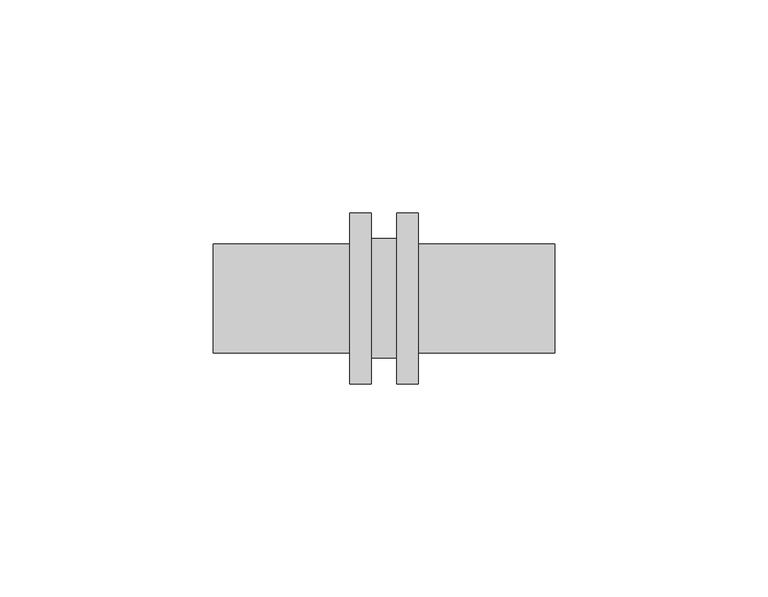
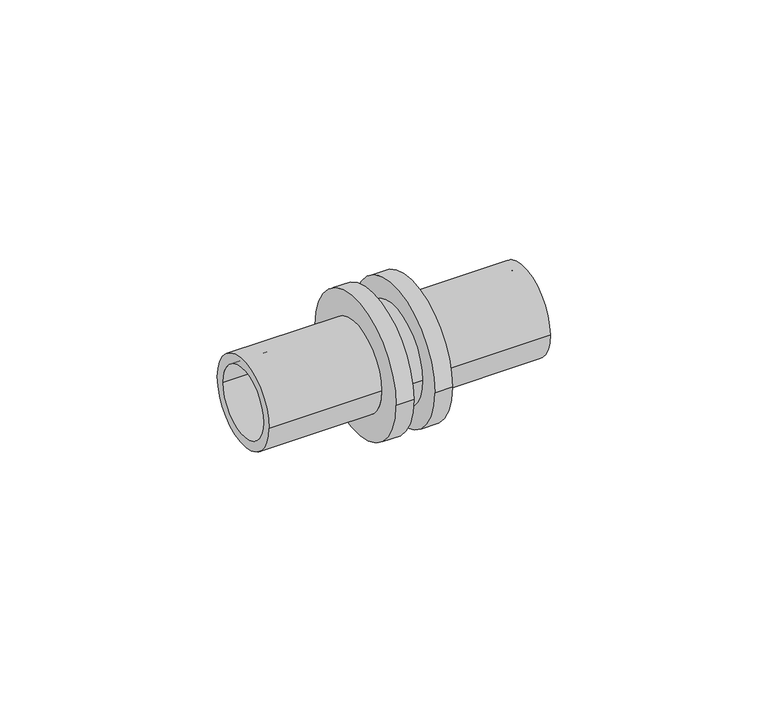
"""IFC4 building model written with IfcOpenShell, lengths in millimetres: pipe fitting geometry, RAUTITAN_Union_RX+ : RTI RX+ U DE."""

from ifc_helpers import new_model, si_unit, frame, origin, place, context, project, spatial, polyline, circle_curve, source, transform, mapped, element, save
from ifc_brep_helpers import plane_surface, cylinder_surface, revolved_surface, advanced_brep


def pipe_fitting_dc5bd9e1(model_context):
    return source(origin(), model_context, "Body", "AdvancedBrep", [
        advanced_brep(
        [(-40.0, 10.0, 0.0), (-40.0, -10.0, 0.0), (40.0, -10.0, 0.0), (40.0, 10.0, 0.0), (-8.0, 12.8, 0.0), (-8.0, -12.8, 0.0), (-40.0, -12.8, 0.0), (-40.0, 12.8, 0.0), (-3.0, 20.0, 0.0), (-3.0, -20.0, 0.0), (-8.0, -20.0, 0.0), (-8.0, 20.0, 0.0), (3.0, 14.0, 0.0), (3.0, -14.0, 0.0), (-3.0, -14.0, 0.0), (-3.0, 14.0, 0.0), (8.0, 20.0, 0.0), (8.0, -20.0, 0.0), (3.0, -20.0, 0.0), (3.0, 20.0, 0.0), (40.0, 12.8, 0.0), (40.0, -12.8, 0.0), (8.0, -12.8, 0.0), (8.0, 12.8, 0.0)],
        [
            (0, 1, circle_curve(frame((-40.0, 0.0, 0.0), z_axis=(-1.0, 0.0, 0.0), x_axis=(0.0, -1.0, 0.0)), 10.0)),
            (1, 2),
            (2, 3, circle_curve(frame((40.0, 0.0, 0.0), z_axis=(1.0, 0.0, 0.0), x_axis=(0.0, -1.0, 0.0)), 10.0)),
            (3, 0),
            (4, 5, circle_curve(frame((-8.0, 0.0, 0.0), z_axis=(-1.0, 0.0, 0.0), x_axis=(0.0, -1.0, 0.0)), 12.8)),
            (5, 6),
            (6, 7, circle_curve(frame((-40.0, 0.0, 0.0), z_axis=(1.0, 0.0, 0.0), x_axis=(0.0, -1.0, 0.0)), 12.8)),
            (7, 4),
            (8, 9, circle_curve(frame((-3.0, 0.0, 0.0), z_axis=(-1.0, 0.0, 0.0), x_axis=(0.0, -1.0, 0.0)), 20.0)),
            (9, 10),
            (10, 11, circle_curve(frame((-8.0, 0.0, 0.0), z_axis=(1.0, 0.0, 0.0), x_axis=(0.0, -1.0, 0.0)), 20.0)),
            (11, 8),
            (12, 13, circle_curve(frame((3.0, 0.0, 0.0), z_axis=(-1.0, 0.0, 0.0), x_axis=(0.0, -1.0, 0.0)), 14.0)),
            (13, 14),
            (14, 15, circle_curve(frame((-3.0, 0.0, 0.0), z_axis=(1.0, 0.0, 0.0), x_axis=(0.0, -1.0, 0.0)), 14.0)),
            (15, 12),
            (16, 17, circle_curve(frame((8.0, 0.0, 0.0), z_axis=(-1.0, 0.0, 0.0), x_axis=(0.0, -1.0, 0.0)), 20.0)),
            (17, 18),
            (18, 19, circle_curve(frame((3.0, 0.0, 0.0), z_axis=(1.0, 0.0, 0.0), x_axis=(0.0, -1.0, 0.0)), 20.0)),
            (19, 16),
            (20, 21, circle_curve(frame((40.0, 0.0, 0.0), z_axis=(-1.0, 0.0, 0.0), x_axis=(0.0, -1.0, 0.0)), 12.8)),
            (21, 22),
            (22, 23, circle_curve(frame((8.0, 0.0, 0.0), z_axis=(1.0, 0.0, 0.0), x_axis=(0.0, -1.0, 0.0)), 12.8)),
            (23, 20),
            (1, 0, circle_curve(frame((-40.0, 0.0, 0.0), z_axis=(-1.0, 0.0, 0.0), x_axis=(0.0, 1.0, 0.0)), 10.0)),
            (3, 2, circle_curve(frame((40.0, 0.0, 0.0), z_axis=(1.0, 0.0, 0.0), x_axis=(0.0, 1.0, 0.0)), 10.0)),
            (6, 7, circle_curve(frame((-40.0, 0.0, 0.0), z_axis=(-1.0, 0.0, 0.0), x_axis=(0.0, 1.0, 0.0)), 12.8)),
            (5, 4, circle_curve(frame((-8.0, 0.0, 0.0), z_axis=(-1.0, 0.0, 0.0), x_axis=(0.0, 1.0, 0.0)), 12.8)),
            (10, 11, circle_curve(frame((-8.0, 0.0, 0.0), z_axis=(-1.0, 0.0, 0.0), x_axis=(0.0, 1.0, 0.0)), 20.0)),
            (9, 8, circle_curve(frame((-3.0, 0.0, 0.0), z_axis=(-1.0, 0.0, 0.0), x_axis=(0.0, 1.0, 0.0)), 20.0)),
            (14, 15, circle_curve(frame((-3.0, 0.0, 0.0), z_axis=(-1.0, 0.0, 0.0), x_axis=(0.0, 1.0, 0.0)), 14.0)),
            (13, 12, circle_curve(frame((3.0, 0.0, 0.0), z_axis=(-1.0, 0.0, 0.0), x_axis=(0.0, 1.0, 0.0)), 14.0)),
            (18, 19, circle_curve(frame((3.0, 0.0, 0.0), z_axis=(-1.0, 0.0, 0.0), x_axis=(0.0, 1.0, 0.0)), 20.0)),
            (17, 16, circle_curve(frame((8.0, 0.0, 0.0), z_axis=(-1.0, 0.0, 0.0), x_axis=(0.0, 1.0, 0.0)), 20.0)),
            (22, 23, circle_curve(frame((8.0, 0.0, 0.0), z_axis=(-1.0, 0.0, 0.0), x_axis=(0.0, 1.0, 0.0)), 12.8)),
            (21, 20, circle_curve(frame((40.0, 0.0, 0.0), z_axis=(-1.0, 0.0, 0.0), x_axis=(0.0, 1.0, 0.0)), 12.8)),
        ],
        [
            revolved_surface(polyline([(40.0, -10.0, 0.0), (-40.0, -10.0, 0.0)]), (0.0, 0.0, 0.0), (1.0, 0.0, 0.0)),
            cylinder_surface(frame((0.0, 0.0, 0.0), z_axis=(1.0, 0.0, 0.0), x_axis=(0.0, -1.0, 0.0)), 12.8),
            cylinder_surface(frame((0.0, 0.0, 0.0), z_axis=(1.0, 0.0, 0.0), x_axis=(0.0, -1.0, 0.0)), 20.0),
            cylinder_surface(frame((0.0, 0.0, 0.0), z_axis=(1.0, 0.0, 0.0), x_axis=(0.0, -1.0, 0.0)), 14.0),
            revolved_surface(polyline([(40.0, 10.0, 0.0), (-40.0, 10.0, 0.0)]), (0.0, 0.0, 0.0), (1.0, 0.0, 0.0)),
            plane_surface(frame((-40.0, 0.0, 0.0), z_axis=(-1.0, 0.0, 0.0), x_axis=(0.0, 1.0, 0.0))),
            cylinder_surface(frame((0.0, 0.0, 0.0), z_axis=(1.0, 0.0, 0.0), x_axis=(0.0, 1.0, 0.0)), 12.8),
            plane_surface(frame((-8.0, 0.0, 0.0), z_axis=(-1.0, 0.0, 0.0), x_axis=(0.0, 1.0, 0.0))),
            cylinder_surface(frame((0.0, 0.0, 0.0), z_axis=(1.0, 0.0, 0.0), x_axis=(0.0, 1.0, 0.0)), 20.0),
            plane_surface(frame((-3.0, 0.0, 0.0), z_axis=(1.0, 0.0, 0.0), x_axis=(0.0, 1.0, 0.0))),
            cylinder_surface(frame((0.0, 0.0, 0.0), z_axis=(1.0, 0.0, 0.0), x_axis=(0.0, 1.0, 0.0)), 14.0),
            plane_surface(frame((3.0, 0.0, 0.0), z_axis=(-1.0, 0.0, 0.0), x_axis=(0.0, 1.0, 0.0))),
            plane_surface(frame((8.0, 0.0, 0.0), z_axis=(1.0, 0.0, 0.0), x_axis=(0.0, 1.0, 0.0))),
            plane_surface(frame((40.0, 0.0, 0.0), z_axis=(1.0, 0.0, 0.0), x_axis=(0.0, 1.0, 0.0))),
        ],
        [
            (0, [[1, 2, 3, 4]]),
            (1, [[5, 6, 7, 8]]),
            (2, [[9, 10, 11, 12]]),
            (3, [[13, 14, 15, 16]]),
            (2, [[17, 18, 19, 20]]),
            (1, [[21, 22, 23, 24]]),
            (4, [[25, -4, 26, -2]]),
            (5, [[27, -7], [-25, -1]]),
            (6, [[28, -8, -27, -6]]),
            (7, [[29, -11], [-28, -5]]),
            (8, [[30, -12, -29, -10]]),
            (9, [[-30, -9], [31, -15]]),
            (10, [[32, -16, -31, -14]]),
            (11, [[33, -19], [-32, -13]]),
            (8, [[34, -20, -33, -18]]),
            (12, [[-34, -17], [35, -23]]),
            (6, [[36, -24, -35, -22]]),
            (13, [[-36, -21], [-26, -3]]),
        ],
    ),
    ])


if __name__ == "__main__":
    model = new_model("IFC4")
    model_context = context("Model", 3, world=origin())
    ifc_project = project(units=[si_unit("LENGTHUNIT", "METRE", prefix="MILLI")], contexts=[model_context])
    site = spatial("IfcSite", under=ifc_project)
    building = spatial("IfcBuilding", under=site)
    placement = place(None, origin())
    pipe_fitting_shape = pipe_fitting_dc5bd9e1(model_context)
    element("IfcPipeFitting", 1, ObjectType="RAUTITAN_Union_RX+ : RTI RX+ U DE", at=placement, inside=building, context=model_context, shape_type="MappedRepresentation", body=[
        mapped(pipe_fitting_shape, transform((0.0, 0.0, 0.0), x_axis=(1.0, 0.0, 0.0), y_axis=(0.0, 1.0, 0.0), z_axis=(0.0, 0.0, 1.0))),
    ])
    save(model, "model.ifc")
